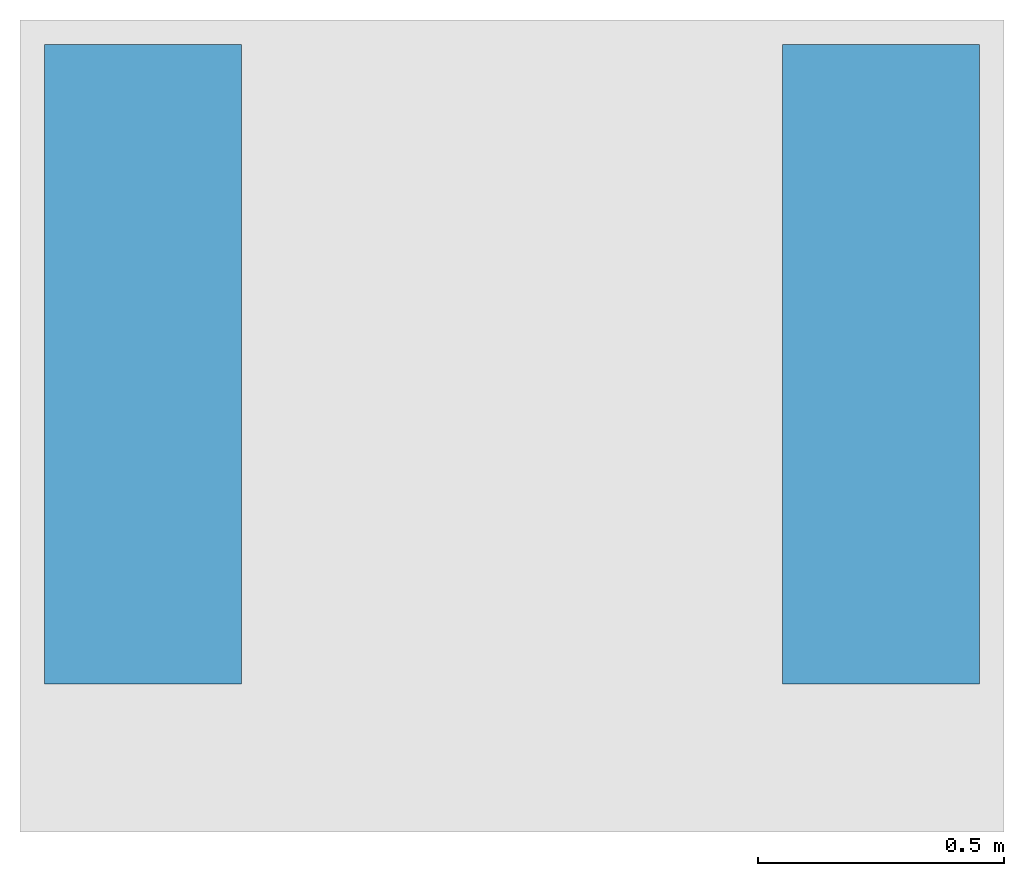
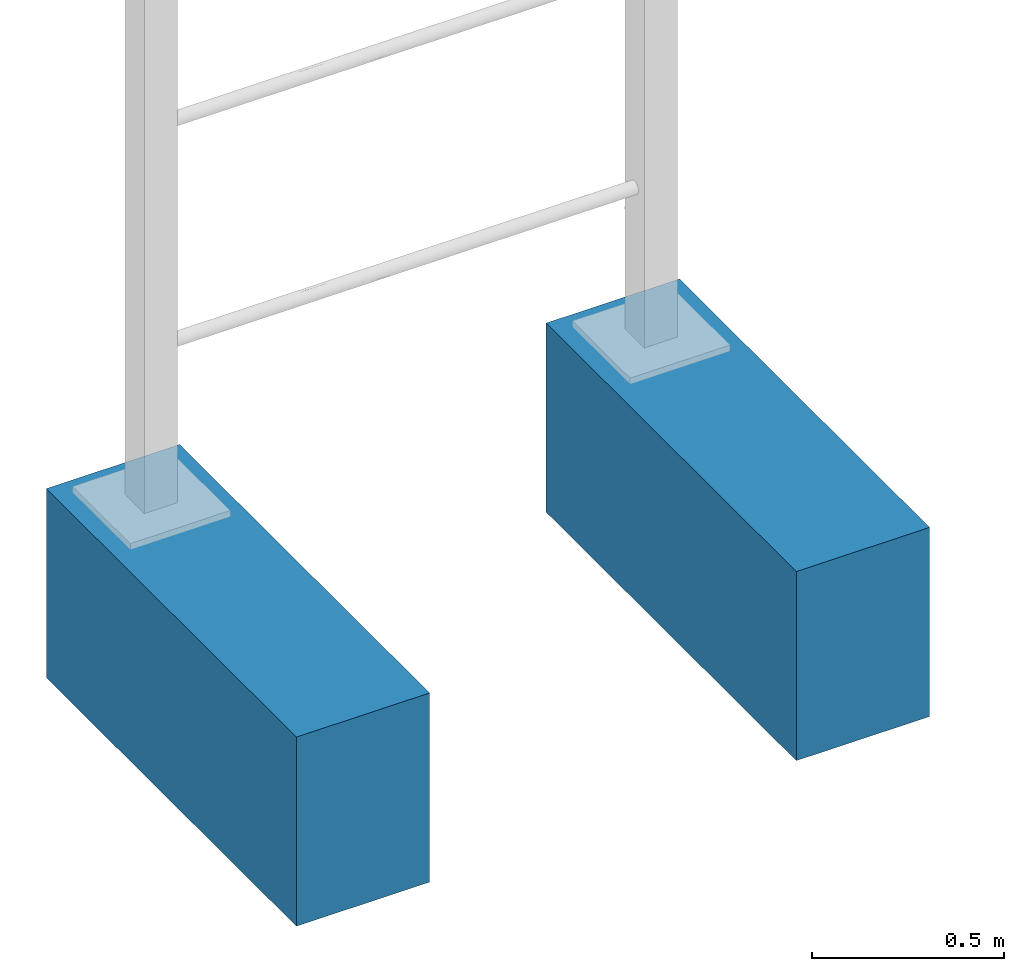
# One storey, incomplete: 1 slab.
"""IFC4 building model written with IfcOpenShell, lengths in metres."""

from ifc_helpers import new_model, entity, si_unit, converted_unit, direction, frame, frame_2d, origin, origin_2d_with_axis, place, context, subcontext, project, spatial, rectangle, extrude, material, type_object, element, save


model = new_model("IFC4")

# Units and contexts
model_context = context("Model", 3, precision=1e-05, world=origin(), true_north=direction((6.123031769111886e-17, 1.0)))
body_context = subcontext(model_context, "Body", "Model", "MODEL_VIEW")
ifc_project = project(units=[si_unit("LENGTHUNIT", "METRE"), converted_unit("PLANEANGLEUNIT", "DEGREE", entity("IfcPlaneAngleMeasure", 0.017453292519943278), si_unit("PLANEANGLEUNIT", "RADIAN"), dimensions=[0, 0, 0, 0, 0, 0, 0]), si_unit("AREAUNIT", "SQUARE_METRE")], contexts=[model_context])

# Site, building, storey
site_placement = place(None, origin())
site = spatial("IfcSite", under=ifc_project, at=site_placement, Name="Default", CompositionType="ELEMENT")
building_placement = place(site_placement, origin())
building = spatial("IfcBuilding", under=site, at=building_placement, CompositionType="ELEMENT")
storey_placement = place(building_placement, origin())
storey = spatial("IfcBuildingStorey", under=building, at=storey_placement, Name="DB_Bezugshoehe_max_Bahnsteigkante", CompositionType="ELEMENT", Elevation=0.0)

# Slab
ifc_material = material(Name="DB_Ortbeton", Category="DB_Beton")
slab_type = type_object("IfcSlabType", Name="DB_FAA_Ueberdachung_Fundamanent_einfeldrig:DB_FAA_Ueberdachung_Fundamanent_einfeldrig", PredefinedType="BASESLAB", material=ifc_material)
slab_placement = place(storey_placement, origin())
element("IfcSlab", 1, at=slab_placement, inside=storey, type_object=slab_type, Name="DB_FAA_Ueberdachung_Fundamanent_einfeldrig:DB_FAA_Ueberdachung_Fundamanent_einfeldrig", ObjectType="DB_FAA_Ueberdachung_Fundamanent_einfeldrig:DB_FAA_Ueberdachung_Fundamanent_einfeldrig", PredefinedType="BASESLAB", context=body_context, shape_type="SweptSolid", body=[
    extrude(rectangle(XDim=1.2999999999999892, YDim=0.39999999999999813, at=frame_2d((0.0, -4.163336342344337e-17), x_axis=(1.0, 0.0))), frame((0.0, -0.4500000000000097, 0.0), z_axis=(0.0, 0.0, 1.0), x_axis=(0.0, 1.0, 0.0)), (0.0, 0.0, 1.0), 0.6000000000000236),
    extrude(rectangle(XDim=1.299999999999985, YDim=0.39999999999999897, at=origin_2d_with_axis()), frame((1.5000000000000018, -0.44999999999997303, 0.0), z_axis=(0.0, 0.0, 1.0), x_axis=(0.0, -1.0, 0.0)), (0.0, 0.0, 1.0), 0.6000000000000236),
])

save(model, "model.ifc")
